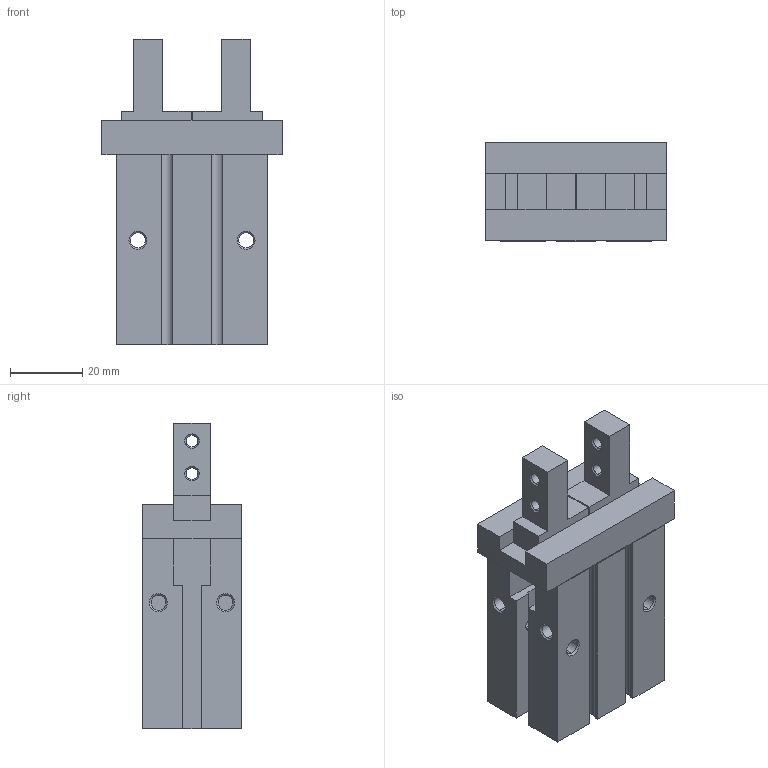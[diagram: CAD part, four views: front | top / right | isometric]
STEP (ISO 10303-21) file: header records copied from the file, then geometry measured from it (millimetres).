
FILE_DESCRIPTION (( 'STEP AP214' ), '1' );
FILE_NAME ('GMHZ2-20D.STEP', '2019-11-12T01:02:47', ( '微软用户' ), ( '微软中国' ), 'SwSTEP 2.0', 'SolidWorks 2016', '' );
FILE_SCHEMA (( 'AUTOMOTIVE_DESIGN' ));
Length unit declared in the file: millimetre
Products named in the file (1): GMHZ2-20D
Bounding box: 50 x 27.6 x 84.8 mm (x, y, z)
Surface area: 20480.2 mm2 (no closed solid volume)
Topology: 0 solids, 7 shells, 226 faces, 580 edges, 372 vertices
Faces by surface type: plane 120, cylinder 56, cone 44, bspline 6
Entity records: 6869 total; most frequent: CARTESIAN_POINT 1273, DIRECTION 1170, ORIENTED_EDGE 1128, EDGE_CURVE 580, VECTOR 392, LINE 392, AXIS2_PLACEMENT_3D 389, VERTEX_POINT 372
